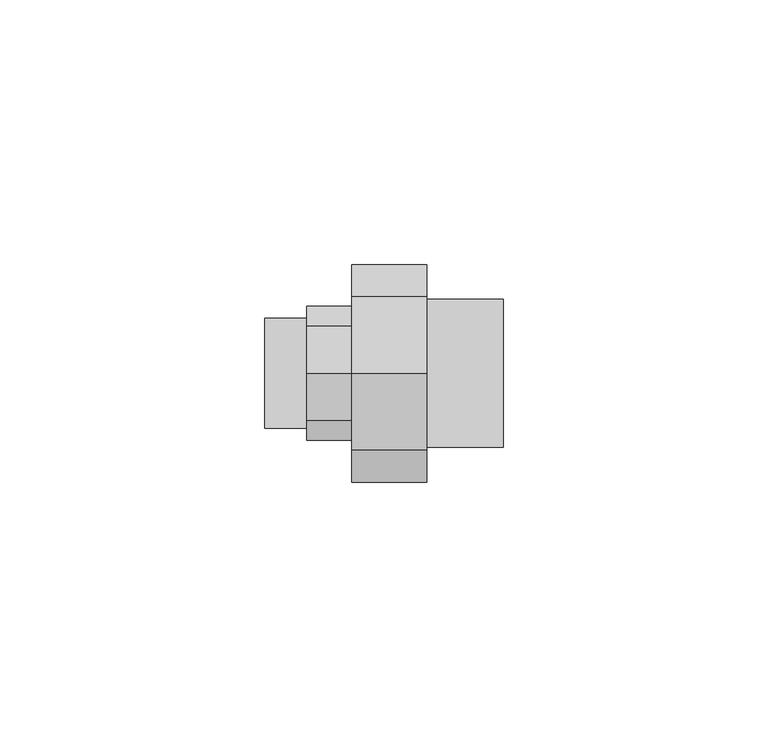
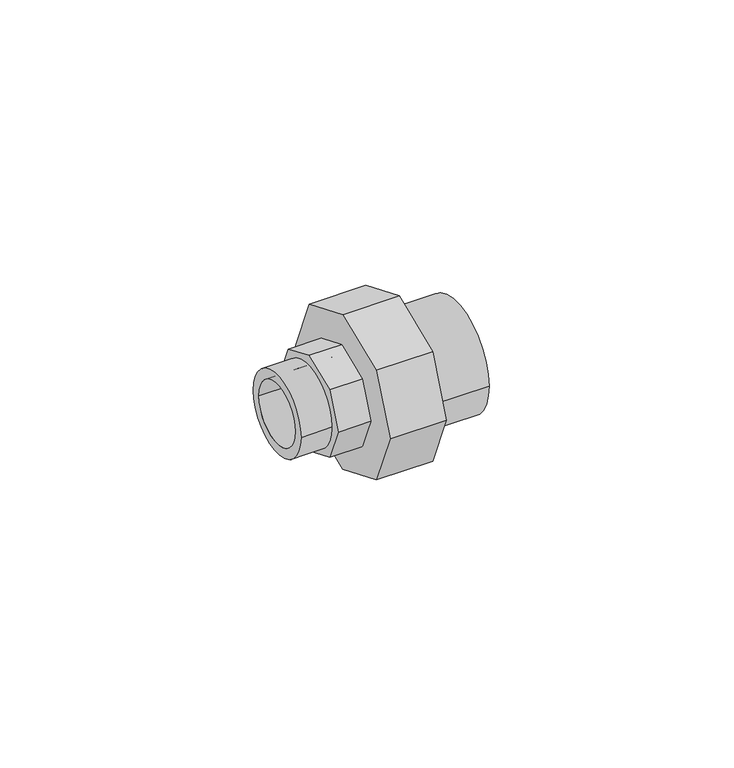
"""IFC4 building model written with IfcOpenShell, lengths in millimetres: pipe fitting geometry, 26_Муфта комбинированная разъемная НР : Белый цвет."""

from ifc_helpers import new_model, si_unit, point, frame, origin, origin_2d, place, context, project, spatial, polyline, circle_curve, trimmed, segment, composite_curve, outline, extrude, source, transform, mapped, element, save


def pipe_fitting_684a8ba7(model_context):
    return source(origin(), model_context, "Body", "SweptSolid", [
        extrude(outline(polyline([(-14.5419704, 14.5419704), (0.0, 20.5654518), (14.5419704, 14.5419704), (20.5654518, 0.0), (14.5419704, -14.5419704), (0.0, -20.5654518), (-14.5419704, -14.5419704), (-20.5654518, 0.0), (-14.5419704, 14.5419704)]), holes=[composite_curve([segment(trimmed(circle_curve(origin_2d(), 7.9), [point((-7.9, 0.0))], [point((7.9, 0.0))], True, "CARTESIAN"), True, "CONTINUOUS"), segment(trimmed(circle_curve(origin_2d(), 7.9), [point((7.9, 0.0))], [point((-7.9, 0.0))], True, "CARTESIAN"), True, "CONTINUOUS")], self_intersect=False)]), frame((0.0, 0.0, 0.0), z_axis=(1.0, 0.0, 0.0), x_axis=(0.0, 1.0, 0.0)), (0.0, 0.0, 1.0), 14.15),
        extrude(outline(polyline([(-8.962446, 8.962446), (0.0, 12.6748127), (8.962446, 8.962446), (12.6748127, 0.0), (8.962446, -8.962446), (0.0, -12.6748127), (-8.962446, -8.962446), (-12.6748127, 0.0), (-8.962446, 8.962446)]), holes=[composite_curve([segment(trimmed(circle_curve(origin_2d(), 7.9), [point((-7.9, 0.0))], [point((7.9, 0.0))], True, "CARTESIAN"), True, "CONTINUOUS"), segment(trimmed(circle_curve(origin_2d(), 7.9), [point((7.9, 0.0))], [point((-7.9, 0.0))], True, "CARTESIAN"), True, "CONTINUOUS")], self_intersect=False)]), frame((-8.5, 0.0, 0.0), z_axis=(1.0, 0.0, 0.0), x_axis=(0.0, 1.0, 0.0)), (0.0, 0.0, 1.0), 8.5),
        extrude(outline(composite_curve([segment(trimmed(circle_curve(origin_2d(), 14.0), [point((-14.0, 0.0))], [point((14.0, 0.0))], False, "CARTESIAN"), True, "CONTINUOUS"), segment(trimmed(circle_curve(origin_2d(), 14.0), [point((14.0, 0.0))], [point((-14.0, 0.0))], False, "CARTESIAN"), True, "CONTINUOUS")], self_intersect=False), holes=[composite_curve([segment(trimmed(circle_curve(origin_2d(), 10.0), [point((-10.0, 0.0))], [point((10.0, 0.0))], True, "CARTESIAN"), True, "CONTINUOUS"), segment(trimmed(circle_curve(origin_2d(), 10.0), [point((10.0, 0.0))], [point((-10.0, 0.0))], True, "CARTESIAN"), True, "CONTINUOUS")], self_intersect=False)]), frame((14.15, 0.0, 0.0), z_axis=(1.0, 0.0, 0.0), x_axis=(0.0, 1.0, 0.0)), (0.0, 0.0, 1.0), 14.5),
        extrude(outline(composite_curve([segment(trimmed(circle_curve(origin_2d(), 10.4), [point((-10.4, 0.0))], [point((10.4, 0.0))], False, "CARTESIAN"), True, "CONTINUOUS"), segment(trimmed(circle_curve(origin_2d(), 10.4), [point((10.4, 0.0))], [point((-10.4, 0.0))], False, "CARTESIAN"), True, "CONTINUOUS")], self_intersect=False), holes=[composite_curve([segment(trimmed(circle_curve(origin_2d(), 7.9), [point((-7.9, 0.0))], [point((7.9, 0.0))], True, "CARTESIAN"), True, "CONTINUOUS"), segment(trimmed(circle_curve(origin_2d(), 7.9), [point((7.9, 0.0))], [point((-7.9, 0.0))], True, "CARTESIAN"), True, "CONTINUOUS")], self_intersect=False)]), frame((-16.5, 0.0, 0.0), z_axis=(1.0, 0.0, 0.0), x_axis=(0.0, 1.0, 0.0)), (0.0, 0.0, 1.0), 8.0),
    ])


if __name__ == "__main__":
    model = new_model("IFC4")
    model_context = context("Model", 3, world=origin())
    ifc_project = project(units=[si_unit("LENGTHUNIT", "METRE", prefix="MILLI")], contexts=[model_context])
    site = spatial("IfcSite", under=ifc_project)
    building = spatial("IfcBuilding", under=site)
    placement = place(None, origin())
    pipe_fitting_shape = pipe_fitting_684a8ba7(model_context)
    element("IfcPipeFitting", 1, ObjectType="26_Муфта комбинированная разъемная НР : Белый цвет", at=placement, inside=building, context=model_context, shape_type="MappedRepresentation", body=[
        mapped(pipe_fitting_shape, transform((0.0, 0.0, 0.0), x_axis=(1.0, 0.0, 0.0), y_axis=(0.0, 1.0, 0.0), z_axis=(0.0, 0.0, 1.0))),
    ])
    save(model, "model.ifc")
